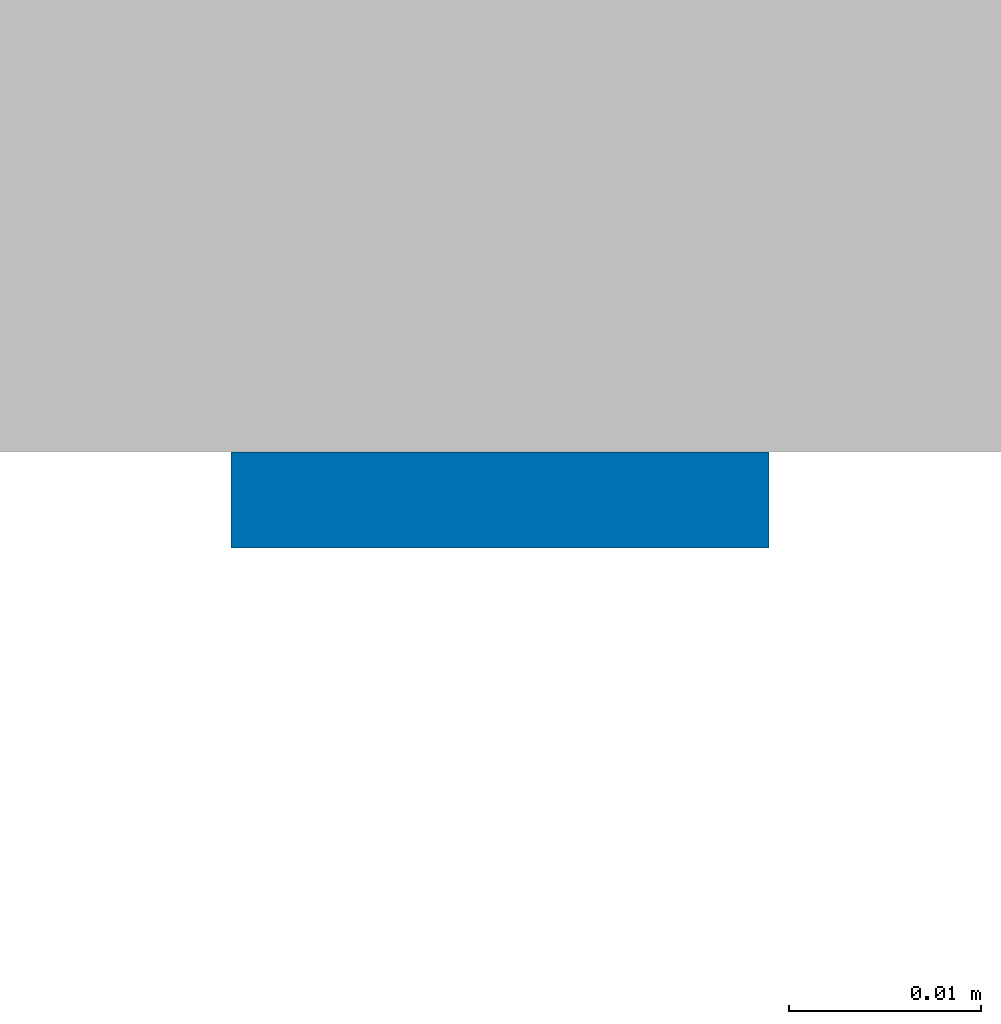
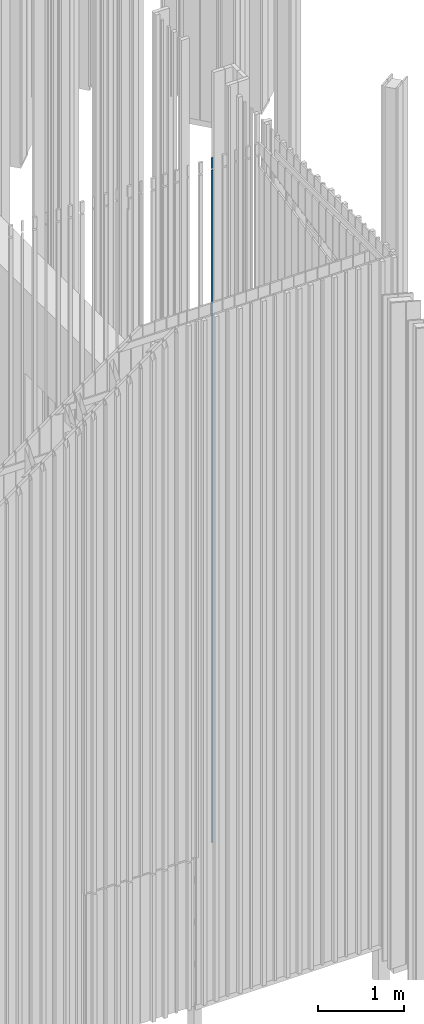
# One storey, part 173 of 390: 1 wall.
"""IFC2X3 building model written with IfcOpenShell, lengths in millimetres."""

from ifc_helpers import new_model, entity, si_unit, converted_unit, derived_unit, money_unit, direction, frame, origin_with_axes, place, context, subcontext, project, spatial, faceted_brep, material, material_list, type_object, element, save


model = new_model("IFC2X3")

# Units and contexts
model_context = context("Model", 3, precision=1e-05, world=origin_with_axes(), true_north=direction((0.0, 1.0)))
body_context = subcontext(model_context, "Body", "Model", "MODEL_VIEW")
ifc_project = project(units=[si_unit("LENGTHUNIT", "METRE", prefix="MILLI"), si_unit("AREAUNIT", "SQUARE_METRE"), si_unit("VOLUMEUNIT", "CUBIC_METRE"), converted_unit("PLANEANGLEUNIT", "DEGREE", entity("IfcPlaneAngleMeasure", 0.0174532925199), si_unit("PLANEANGLEUNIT", "RADIAN"), dimensions=[0, 0, 0, 0, 0, 0, 0]), si_unit("SOLIDANGLEUNIT", "STERADIAN"), money_unit("EUR"), converted_unit("TIMEUNIT", "Year", entity("IfcTimeMeasure", 31556926.0), si_unit("TIMEUNIT", "SECOND"), dimensions=[0, 0, 1, 0, 0, 0, 0]), si_unit("MASSUNIT", "GRAM", prefix="KILO"), si_unit("THERMODYNAMICTEMPERATUREUNIT", "DEGREE_CELSIUS"), si_unit("LUMINOUSINTENSITYUNIT", "LUMEN"), si_unit("ENERGYUNIT", "JOULE", prefix="MEGA"), derived_unit("THERMALCONDUCTANCEUNIT", [(si_unit("POWERUNIT", "WATT"), 1), (si_unit("LENGTHUNIT", "METRE"), -1), (si_unit("THERMODYNAMICTEMPERATUREUNIT", "KELVIN"), -1)]), derived_unit("SPECIFICHEATCAPACITYUNIT", [(si_unit("ENERGYUNIT", "JOULE"), 1), (si_unit("MASSUNIT", "GRAM", prefix="KILO"), -1), (si_unit("THERMODYNAMICTEMPERATUREUNIT", "KELVIN"), -1)]), derived_unit("MASSDENSITYUNIT", [(si_unit("MASSUNIT", "GRAM", prefix="KILO"), 1), (si_unit("VOLUMEUNIT", "CUBIC_METRE"), -1)])], contexts=[model_context])

# Site, building, storey
site_placement = place(None, origin_with_axes())
site = spatial("IfcSite", under=ifc_project, at=site_placement, Name="Site", CompositionType="ELEMENT")
building_placement = place(site_placement, origin_with_axes())
building = spatial("IfcBuilding", under=site, at=building_placement, Name="Building", CompositionType="ELEMENT")
storey_placement = place(building_placement, origin_with_axes())
storey = spatial("IfcBuildingStorey", under=building, at=storey_placement, Name="1 korrus", CompositionType="ELEMENT", Elevation=0.0)

# Wall
ifc_material = material(Name="Site specified")
ifc_material_list = material_list([ifc_material, ifc_material])
wall_type = type_object("IfcWallType", Name="Puitfassaadi ribistik", PredefinedType="NOTDEFINED")
wall_placement = place(storey_placement, frame((138904.000037, 45271.9999592, 100.000000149), z_axis=(0.0, 0.0, 1.0), x_axis=(-1.0, 0.0, 0.0)))
element("IfcWall", 1, at=wall_placement, inside=storey, type_object=wall_type, material=ifc_material_list, Name="Site specified", context=body_context, shape_type="Brep", body=[
    faceted_brep([(14.0, 9.00004713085, -3.12924797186e-06), (14.0, 8.99995081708, 9591.91725957), (-14.0, 8.99995081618, 9591.91725957), (-14.0, 9.00004712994, -3.12924797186e-06), (14.0, 14.0, 0.0), (14.0, 14.0, 9590.85446631), (-14.0, 14.0, 9590.85446631), (-14.0, 14.0, 0.0)], [[[0, 1, 2, 3]], [[4, 5, 1, 0]], [[5, 6, 2, 1]], [[3, 2, 6, 7]], [[0, 3, 7, 4]], [[7, 6, 5, 4]]]),
    faceted_brep([(-14.0, 14.0, 9764.99999985), (-14.0, 14.0, 9612.3236188), (-14.0, 8.99995081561, 9613.38641206), (-14.0, 8.99995081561, 9764.99999985), (14.0, 14.0, 9764.99999985), (14.0, 14.0, 9612.3236188), (14.0, 8.99995081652, 9613.38641206), (14.0, 8.99995081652, 9764.99999985)], [[[0, 1, 2, 3]], [[4, 5, 1, 0]], [[5, 6, 2, 1]], [[3, 2, 6, 7]], [[3, 7, 4, 0]], [[7, 6, 5, 4]]]),
])

save(model, "model.ifc")
